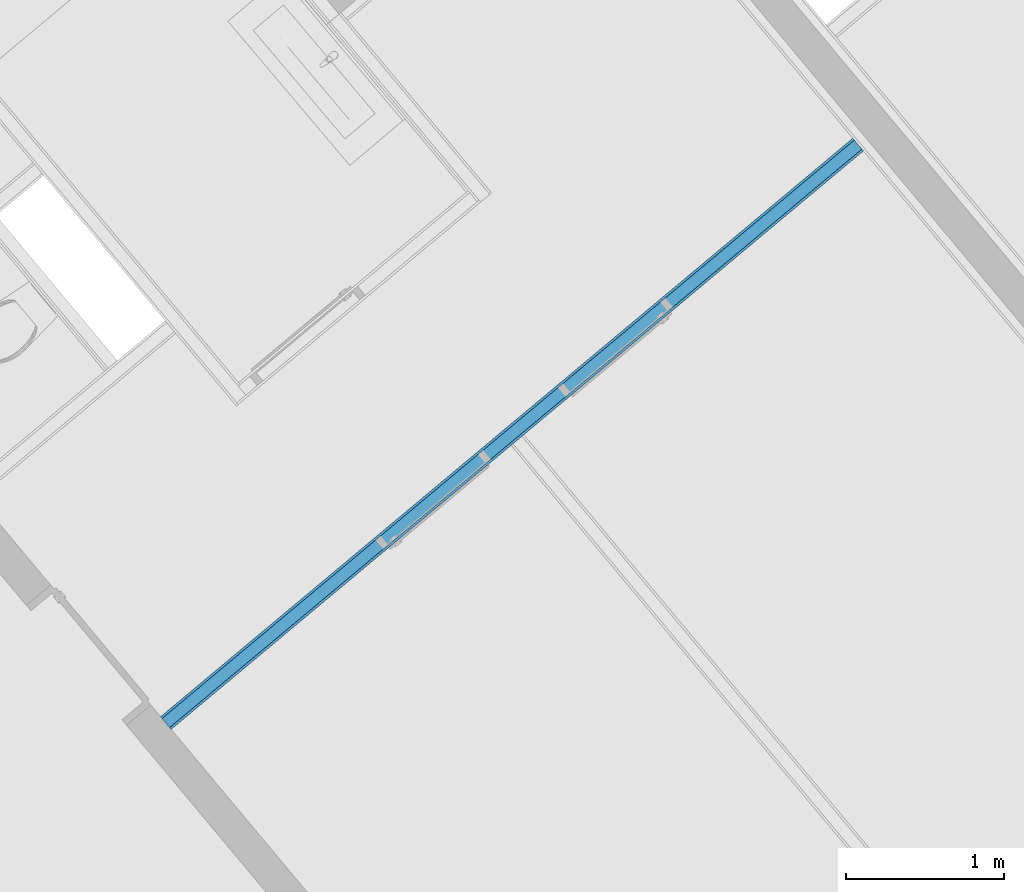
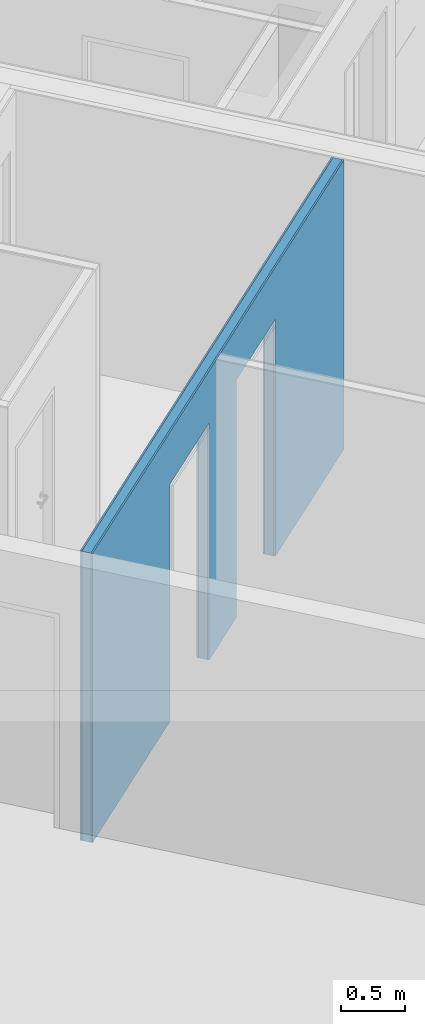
# One storey, part 14 of 75: 3 building element parts, 2 openings, 1 element without a shape of its own.
"""IFC4 building model written with IfcOpenShell, lengths in metres."""

from ifc_helpers import new_model, entity, si_unit, converted_unit, derived_unit, direction, frame, origin_with_axes, place, context, subcontext, project, spatial, polygons, material, type_object, element, aggregate, save


model = new_model("IFC4")

# Units and contexts
model_context = context("Model", 3, precision=1e-05, world=origin_with_axes(), true_north=direction((0.0, 1.0)))
body_context = subcontext(model_context, "Body", "Model", "MODEL_VIEW")
ifc_project = project(units=[si_unit("LENGTHUNIT", "METRE"), si_unit("AREAUNIT", "SQUARE_METRE"), si_unit("VOLUMEUNIT", "CUBIC_METRE"), converted_unit("PLANEANGLEUNIT", "DEGREE", entity("IfcPlaneAngleMeasure", 0.0174532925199), si_unit("PLANEANGLEUNIT", "RADIAN"), dimensions=[0, 0, 0, 0, 0, 0, 0]), converted_unit("TIMEUNIT", "Year", entity("IfcTimeMeasure", 31556926.0), si_unit("TIMEUNIT", "SECOND"), dimensions=[0, 0, 1, 0, 0, 0, 0]), si_unit("MASSUNIT", "GRAM", prefix="KILO"), si_unit("THERMODYNAMICTEMPERATUREUNIT", "DEGREE_CELSIUS"), si_unit("LUMINOUSINTENSITYUNIT", "LUMEN"), si_unit("ENERGYUNIT", "JOULE", prefix="MEGA"), derived_unit("THERMALCONDUCTANCEUNIT", [(si_unit("POWERUNIT", "WATT"), 1), (si_unit("LENGTHUNIT", "METRE"), -1), (si_unit("THERMODYNAMICTEMPERATUREUNIT", "KELVIN"), -1)]), derived_unit("SPECIFICHEATCAPACITYUNIT", [(si_unit("ENERGYUNIT", "JOULE"), 1), (si_unit("MASSUNIT", "GRAM", prefix="KILO"), -1), (si_unit("THERMODYNAMICTEMPERATUREUNIT", "KELVIN"), -1)]), derived_unit("MASSDENSITYUNIT", [(si_unit("MASSUNIT", "GRAM", prefix="KILO"), 1), (si_unit("VOLUMEUNIT", "CUBIC_METRE"), -1)])], contexts=[model_context])

# Site, building, storey
site_placement = place(None, frame((-0.00153261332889, -0.00661245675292, 0.0), z_axis=(0.0, 0.0, 1.0), x_axis=(1.0, 0.0, 0.0)))
site = spatial("IfcSite", under=ifc_project, at=site_placement, Name="Gelände", CompositionType="ELEMENT")
building_placement = place(site_placement, origin_with_axes())
building = spatial("IfcBuilding", under=site, at=building_placement, Name="Gebäude", CompositionType="ELEMENT")
storey_placement = place(building_placement, frame((0.0, 0.0, -0.22), z_axis=(0.0, 0.0, 1.0), x_axis=(1.0, 0.0, 0.0)))
storey = spatial("IfcBuildingStorey", under=building, at=storey_placement, Name="EG", CompositionType="ELEMENT", Elevation=-0.22)

# Wall, openings, building element parts
wall_type = type_object("IfcWallType", Name="IW LB 01 Leichtbautrennwand einfach 10,5 cm 105", PredefinedType="NOTDEFINED")
wall_placement = place(storey_placement, frame((4.97586165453, 20.0436517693, 0.0), z_axis=(0.0, 0.0, 1.0), x_axis=(-0.767365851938, -0.641209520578, 0.0)))
wall = element("IfcWall", 1, at=wall_placement, inside=storey, type_object=wall_type, Name="Wand-012", PredefinedType="NOTDEFINED")
opening_1_placement = place(wall_placement, frame((3.50803466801, 0.0, 0.22), z_axis=(0.0, 0.0, 1.0), x_axis=(1.0, 0.0, 0.0)))
element("IfcOpeningElement", 2, at=opening_1_placement, cuts=wall, Name="Tür-016", context=body_context, identifier="Reference", shape_type="Tessellation", body=[
    polygons([(-0.445, -2.91765554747, 2.045), (-0.445, -2.91765554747, -0.22), (0.445, -2.91765554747, -0.22), (0.445, -2.91765554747, 2.045), (-0.445, 2.81265554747, 2.045), (-0.445, 2.81265554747, -0.22), (0.445, 2.81265554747, -0.22), (0.445, 2.81265554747, 2.045)], [[[1, 2, 3, 4]], [[5, 6, 2, 1]], [[6, 7, 3, 2]], [[7, 8, 4, 3]], [[8, 5, 1, 4]], [[7, 6, 5, 8]]], closed=True),
])
opening_2_placement = place(wall_placement, frame((2.00304118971, 0.0, 0.22), z_axis=(0.0, 0.0, 1.0), x_axis=(1.0, 0.0, 0.0)))
element("IfcOpeningElement", 3, at=opening_2_placement, cuts=wall, Name="Tür-016", context=body_context, identifier="Reference", shape_type="Tessellation", body=[
    polygons([(-0.445, -2.91765554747, 2.045), (-0.445, -2.91765554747, -0.22), (0.445, -2.91765554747, -0.22), (0.445, -2.91765554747, 2.045), (-0.445, 2.81265554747, 2.045), (-0.445, 2.81265554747, -0.22), (0.445, 2.81265554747, -0.22), (0.445, 2.81265554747, 2.045)], [[[1, 2, 3, 4]], [[5, 6, 2, 1]], [[6, 7, 3, 2]], [[7, 8, 4, 3]], [[8, 5, 1, 4]], [[7, 6, 5, 8]]], closed=True),
])
ifc_material_1 = material(Name="Gipskarton")
building_element_part_1_placement = place(wall_placement, origin_with_axes())
building_element_part_1 = element("IfcBuildingElementPart", 4, at=building_element_part_1_placement, material=ifc_material_1, Name="Gipskarton", PredefinedType="NOTDEFINED", context=body_context, shape_type="Tessellation", body=[
    polygons([(2.44804118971, 5.07949771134e-09, 0.22), (2.44804118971, 9.54859302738e-09, 2.265), (1.55804118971, 9.54859480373e-09, 2.265), (1.55804118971, 2.1756141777e-08, 0.22), (1.55804118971, 2.17561400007e-08, 0.0), (0.0, 0.0, 0.0), (0.0, 0.0, 2.76), (5.71425587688, 0.0, 2.76), (5.71425587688, 0.0, 0.0), (3.95303466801, 9.54859658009e-09, 0.0), (3.95303466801, 9.54859302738e-09, 0.22), (3.95303466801, -2.80242105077e-08, 2.265), (3.06303466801, -2.80242122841e-08, 2.265), (3.06303466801, -2.80242122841e-08, 0.22), (3.06303469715, -2.80242105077e-08, 0.0), (2.44804118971, 5.07949948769e-09, 0.0), (2.44804118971, -0.015, 0.22), (2.44804118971, -0.015, 2.265), (1.55804118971, -0.015, 2.265), (1.55804118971, -0.015, 0.22), (1.55804118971, -0.015, 0.0), (-7.11748504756e-06, -0.015, 0.0), (-7.11748504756e-06, -0.015, 2.76), (5.71425587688, -0.015, 2.76), (5.71425587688, -0.015, 0.0), (3.95303466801, -0.015, 0.0), (3.95303466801, -0.015, 0.22), (3.95303466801, -0.015, 2.265), (3.06303466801, -0.015, 2.265), (3.06303466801, -0.015, 0.22), (3.06303469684, -0.015, 0.0), (2.44804118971, -0.015, 0.0)], [[[1, 2, 3, 4, 5, 6, 7, 8, 9, 10, 11, 12, 13, 14, 15, 16]], [[2, 1, 17, 18]], [[3, 2, 18, 19]], [[4, 3, 19, 20]], [[4, 20, 21, 5]], [[22, 6, 5, 21]], [[6, 22, 23, 7]], [[23, 24, 8, 7]], [[25, 9, 8, 24]], [[9, 25, 26, 10]], [[11, 10, 26, 27]], [[11, 27, 28, 12]], [[12, 28, 29, 13]], [[13, 29, 30, 14]], [[30, 31, 15, 14]], [[32, 16, 15, 31]], [[17, 1, 16, 32]], [[18, 17, 32, 31, 30, 29, 28, 27, 26, 25, 24, 23, 22, 21, 20, 19]]], closed=True),
])
ifc_material_2 = material(Name="Mineralwolle weich")
building_element_part_2_placement = place(wall_placement, origin_with_axes())
building_element_part_2 = element("IfcBuildingElementPart", 5, at=building_element_part_2_placement, material=ifc_material_2, Name="Mineralwolle weich", PredefinedType="NOTDEFINED", context=body_context, shape_type="Tessellation", body=[
    polygons([(2.44804118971, -0.015, 0.22), (2.44804118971, -0.015, 2.265), (1.55804118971, -0.015, 2.265), (1.55804118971, -0.015, 0.22), (1.55804118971, -0.015, 0.0), (-7.11748504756e-06, -0.015, 0.0), (-7.11748504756e-06, -0.015, 2.76), (5.71425587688, -0.015, 2.76), (5.71425587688, -0.015, 0.0), (3.95303466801, -0.015, 0.0), (3.95303466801, -0.015, 0.22), (3.95303466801, -0.015, 2.265), (3.06303466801, -0.015, 2.265), (3.06303466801, -0.015, 0.22), (3.06303469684, -0.015, 0.0), (2.44804118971, -0.015, 0.0), (2.44804118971, -0.09, 0.22), (2.44804118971, -0.09, 2.265), (1.55804118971, -0.09, 2.265), (1.55804118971, -0.09, 0.22), (1.55804118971, -0.09, 0.0), (-4.27048403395e-05, -0.09, 0.0), (-4.27048403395e-05, -0.09, 2.76), (5.71425587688, -0.09, 2.76), (5.71425587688, -0.09, 0.0), (3.95303466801, -0.09, 0.0), (3.95303466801, -0.09, 0.22), (3.95303466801, -0.09, 2.265), (3.06303466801, -0.09, 2.265), (3.06303466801, -0.09, 0.22), (3.0630346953, -0.09, 0.0), (2.44804118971, -0.09, 0.0)], [[[1, 2, 3, 4, 5, 6, 7, 8, 9, 10, 11, 12, 13, 14, 15, 16]], [[2, 1, 17, 18]], [[3, 2, 18, 19]], [[4, 3, 19, 20]], [[4, 20, 21, 5]], [[22, 6, 5, 21]], [[6, 22, 23, 7]], [[23, 24, 8, 7]], [[25, 9, 8, 24]], [[9, 25, 26, 10]], [[11, 10, 26, 27]], [[11, 27, 28, 12]], [[12, 28, 29, 13]], [[13, 29, 30, 14]], [[30, 31, 15, 14]], [[32, 16, 15, 31]], [[17, 1, 16, 32]], [[18, 17, 32, 31, 30, 29, 28, 27, 26, 25, 24, 23, 22, 21, 20, 19]]], closed=True),
])
building_element_part_3_placement = place(wall_placement, origin_with_axes())
building_element_part_3 = element("IfcBuildingElementPart", 6, at=building_element_part_3_placement, material=ifc_material_1, Name="Gipskarton", PredefinedType="NOTDEFINED", context=body_context, shape_type="Tessellation", body=[
    polygons([(2.44804118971, -0.09, 0.22), (2.44804118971, -0.09, 2.265), (1.55804118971, -0.09, 2.265), (1.55804118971, -0.09, 0.22), (1.55804118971, -0.09, 0.0), (-4.27048403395e-05, -0.09, 0.0), (-4.27048403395e-05, -0.09, 2.76), (5.71425587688, -0.09, 2.76), (5.71425587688, -0.09, 0.0), (3.95303466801, -0.09, 0.0), (3.95303466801, -0.09, 0.22), (3.95303466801, -0.09, 2.265), (3.06303466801, -0.09, 2.265), (3.06303466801, -0.09, 0.22), (3.0630346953, -0.09, 0.0), (2.44804118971, -0.09, 0.0), (2.44804118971, -0.105, 0.22), (2.44804118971, -0.105, 2.265), (1.55804118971, -0.105, 2.265), (1.55804118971, -0.105, 0.22), (1.55804118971, -0.105, 0.0), (-4.98223113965e-05, -0.105, 0.0), (-4.98223113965e-05, -0.105, 2.76), (5.71425587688, -0.105, 2.76), (5.71425587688, -0.105, 0.0), (3.95303466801, -0.105, 0.0), (3.95303466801, -0.105, 0.22), (3.95303466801, -0.105, 2.265), (3.06303466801, -0.105, 2.265), (3.06303466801, -0.105, 0.22), (3.06303469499, -0.105, 0.0), (2.44804118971, -0.105, 0.0)], [[[1, 2, 3, 4, 5, 6, 7, 8, 9, 10, 11, 12, 13, 14, 15, 16]], [[2, 1, 17, 18]], [[3, 2, 18, 19]], [[4, 3, 19, 20]], [[4, 20, 21, 5]], [[22, 6, 5, 21]], [[6, 22, 23, 7]], [[23, 24, 8, 7]], [[25, 9, 8, 24]], [[9, 25, 26, 10]], [[11, 10, 26, 27]], [[11, 27, 28, 12]], [[12, 28, 29, 13]], [[13, 29, 30, 14]], [[30, 31, 15, 14]], [[32, 16, 15, 31]], [[17, 1, 16, 32]], [[18, 17, 32, 31, 30, 29, 28, 27, 26, 25, 24, 23, 22, 21, 20, 19]]], closed=True),
])
aggregate(wall, [building_element_part_1, building_element_part_2, building_element_part_3])

save(model, "model.ifc")
